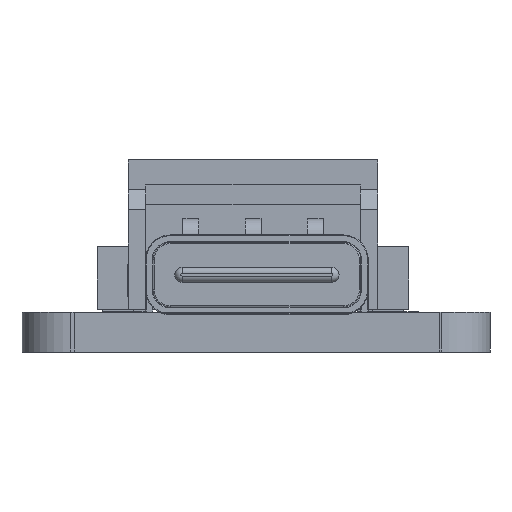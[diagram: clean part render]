
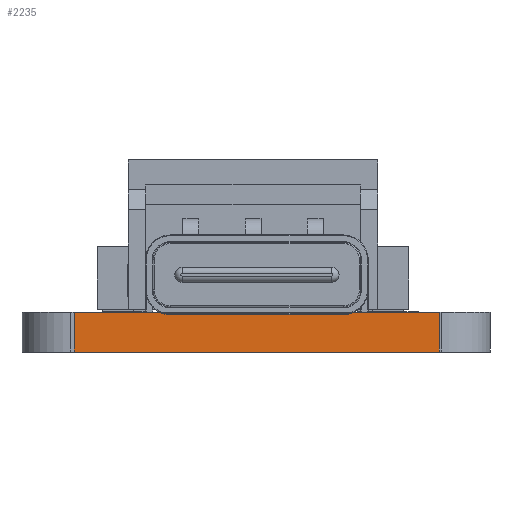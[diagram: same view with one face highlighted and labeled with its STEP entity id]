
A CAD part, left-side view. The second image highlights one B-rep face of the part: STEP entity #2235.
In plain terms, the highlighted planar face has unit normal (-1, -0.001, 0).
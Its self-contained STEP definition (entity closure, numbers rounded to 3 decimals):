
#550 = VERTEX_POINT ( 'NONE', #22144 ) ;
#695 = VERTEX_POINT ( 'NONE', #4540 ) ;
#1513 = CARTESIAN_POINT ( 'NONE',  ( 0.905, -19.166, 0. ) ) ;
#1781 = VERTEX_POINT ( 'NONE', #20543 ) ;
#2235 = ADVANCED_FACE ( 'NONE', ( #3866 ), #22525, .T. ) ;
#3866 = FACE_OUTER_BOUND ( 'NONE', #20621, .T. ) ;
#4466 = ORIENTED_EDGE ( 'NONE', *, *, #9443, .F. ) ;
#4540 = CARTESIAN_POINT ( 'NONE',  ( 0.897, -4.514, 0. ) ) ;
#7358 = ORIENTED_EDGE ( 'NONE', *, *, #19162, .F. ) ;
#7708 = LINE ( 'NONE', #9816, #18965 ) ;
#8119 = VECTOR ( 'NONE', #15659, 1000. ) ;
#9125 = DIRECTION ( 'NONE',  ( 0., 1., 0. ) ) ;
#9180 = LINE ( 'NONE', #15284, #13029 ) ;
#9443 = EDGE_CURVE ( 'NONE', #695, #550, #7708, .T. ) ;
#9816 = CARTESIAN_POINT ( 'NONE',  ( 0.897, -4.514, 0. ) ) ;
#10320 = ORIENTED_EDGE ( 'NONE', *, *, #13367, .T. ) ;
#12849 = EDGE_CURVE ( 'NONE', #1781, #550, #19436, .T. ) ;
#13029 = VECTOR ( 'NONE', #17514, 1000. ) ;
#13367 = EDGE_CURVE ( 'NONE', #16445, #1781, #19625, .T. ) ;
#14243 = CARTESIAN_POINT ( 'NONE',  ( 0.905, -19.166, 0. ) ) ;
#14482 = VECTOR ( 'NONE', #9125, 1000. ) ;
#15218 = CARTESIAN_POINT ( 'NONE',  ( 0.905, -19.166, 1.6 ) ) ;
#15284 = CARTESIAN_POINT ( 'NONE',  ( 0.905, -19.166, 0. ) ) ;
#15579 = ORIENTED_EDGE ( 'NONE', *, *, #12849, .T. ) ;
#15659 = DIRECTION ( 'NONE',  ( 0., 0., 1. ) ) ;
#16445 = VERTEX_POINT ( 'NONE', #14243 ) ;
#17514 = DIRECTION ( 'NONE',  ( 0., 1., 0. ) ) ;
#18965 = VECTOR ( 'NONE', #21992, 1000. ) ;
#19162 = EDGE_CURVE ( 'NONE', #16445, #695, #9180, .T. ) ;
#19436 = LINE ( 'NONE', #15218, #14482 ) ;
#19625 = LINE ( 'NONE', #1513, #8119 ) ;
#20519 = DIRECTION ( 'NONE',  ( 0., 1., 0. ) ) ;
#20543 = CARTESIAN_POINT ( 'NONE',  ( 0.905, -19.166, 1.6 ) ) ;
#20621 = EDGE_LOOP ( 'NONE', ( #10320, #15579, #4466, #7358 ) ) ;
#21992 = DIRECTION ( 'NONE',  ( 0., 0., 1. ) ) ;
#22144 = CARTESIAN_POINT ( 'NONE',  ( 0.897, -4.514, 1.6 ) ) ;
#22248 = CARTESIAN_POINT ( 'NONE',  ( 0.905, -19.166, 0. ) ) ;
#22333 = AXIS2_PLACEMENT_3D ( 'NONE', #22248, #26077, #20519 ) ;
#22525 = PLANE ( 'NONE',  #22333 ) ;
#26077 = DIRECTION ( 'NONE',  ( -1., 0., 0. ) ) ;
